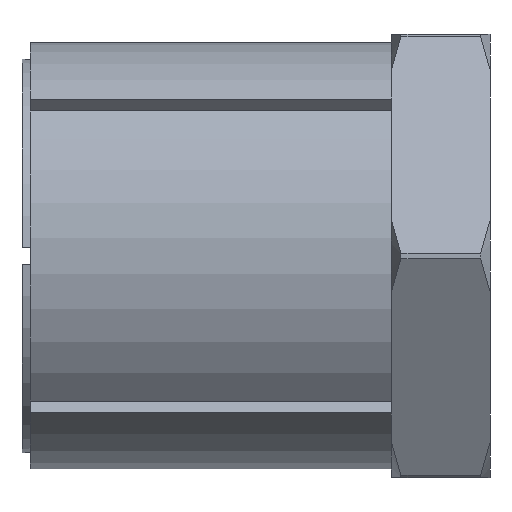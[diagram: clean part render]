
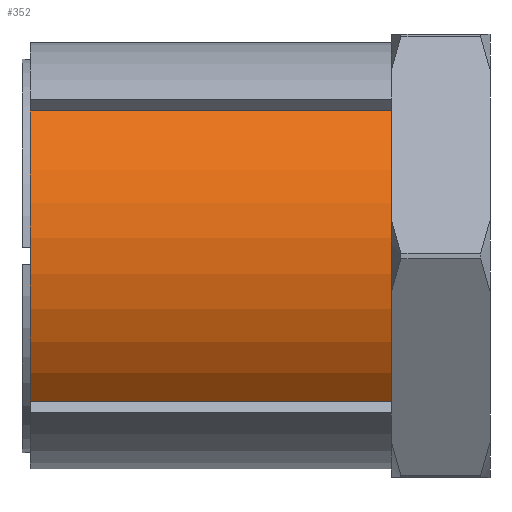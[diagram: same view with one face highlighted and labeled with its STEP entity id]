
A CAD part, front view. The second image highlights one B-rep face of the part: STEP entity #352.
In plain terms, the highlighted cylindrical face has radius 13 mm (diameter 26 mm), a partial arc.
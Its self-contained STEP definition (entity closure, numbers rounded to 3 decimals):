
#352 = ADVANCED_FACE ( 'NONE', ( #691 ), #698, .T. ) ;
#534 = ORIENTED_EDGE ( 'NONE', *, *, #2344, .F. ) ;
#546 = ORIENTED_EDGE ( 'NONE', *, *, #2377, .T. ) ;
#547 = ORIENTED_EDGE ( 'NONE', *, *, #2381, .T. ) ;
#555 = ORIENTED_EDGE ( 'NONE', *, *, #2383, .T. ) ;
#691 = FACE_OUTER_BOUND ( 'NONE', #1288, .T. ) ;
#698 = CYLINDRICAL_SURFACE ( 'NONE', #2528, 13. ) ;
#898 = LINE ( 'NONE', #2069, #903 ) ;
#903 = VECTOR ( 'NONE', #2070, 1000. ) ;
#905 = CIRCLE ( 'NONE', #2622, 13. ) ;
#913 = LINE ( 'NONE', #2080, #914 ) ;
#914 = VECTOR ( 'NONE', #2081, 1000. ) ;
#918 = CIRCLE ( 'NONE', #2626, 13. ) ;
#1288 = EDGE_LOOP ( 'NONE', ( #555, #546, #534, #547 ) ) ;
#1392 = VERTEX_POINT ( 'NONE', #1910 ) ;
#1393 = VERTEX_POINT ( 'NONE', #1911 ) ;
#1394 = VERTEX_POINT ( 'NONE', #1912 ) ;
#1403 = VERTEX_POINT ( 'NONE', #1921 ) ;
#1505 = DIRECTION ( 'NONE',  ( 0., 0., 1. ) ) ;
#1515 = DIRECTION ( 'NONE',  ( -1., 0., 0. ) ) ;
#1516 = CARTESIAN_POINT ( 'NONE',  ( 0., 0., 0. ) ) ;
#1910 = CARTESIAN_POINT ( 'NONE',  ( 22., -9.539, 8.832 ) ) ;
#1911 = CARTESIAN_POINT ( 'NONE',  ( 0., -9.539, 8.832 ) ) ;
#1912 = CARTESIAN_POINT ( 'NONE',  ( 0., -9.539, -8.832 ) ) ;
#1921 = CARTESIAN_POINT ( 'NONE',  ( 22., -9.539, -8.832 ) ) ;
#2060 = CARTESIAN_POINT ( 'NONE',  ( 0., 0., 0. ) ) ;
#2067 = DIRECTION ( 'NONE',  ( -1., 0., 0. ) ) ;
#2068 = DIRECTION ( 'NONE',  ( 0., 0., 1. ) ) ;
#2069 = CARTESIAN_POINT ( 'NONE',  ( 0., -9.539, 8.832 ) ) ;
#2070 = DIRECTION ( 'NONE',  ( -1., 0., 0. ) ) ;
#2075 = CARTESIAN_POINT ( 'NONE',  ( 22., 0., 0. ) ) ;
#2080 = CARTESIAN_POINT ( 'NONE',  ( 0., -9.539, -8.832 ) ) ;
#2081 = DIRECTION ( 'NONE',  ( 1., 0., 0. ) ) ;
#2084 = DIRECTION ( 'NONE',  ( -1., 0., 0. ) ) ;
#2085 = DIRECTION ( 'NONE',  ( 0., 0., 1. ) ) ;
#2344 = EDGE_CURVE ( 'NONE', #1394, #1393, #905, .T. ) ;
#2377 = EDGE_CURVE ( 'NONE', #1392, #1393, #898, .T. ) ;
#2381 = EDGE_CURVE ( 'NONE', #1394, #1403, #913, .T. ) ;
#2383 = EDGE_CURVE ( 'NONE', #1403, #1392, #918, .T. ) ;
#2528 = AXIS2_PLACEMENT_3D ( 'NONE', #1516, #1515, #1505 ) ;
#2622 = AXIS2_PLACEMENT_3D ( 'NONE', #2060, #2067, #2068 ) ;
#2626 = AXIS2_PLACEMENT_3D ( 'NONE', #2075, #2084, #2085 ) ;
